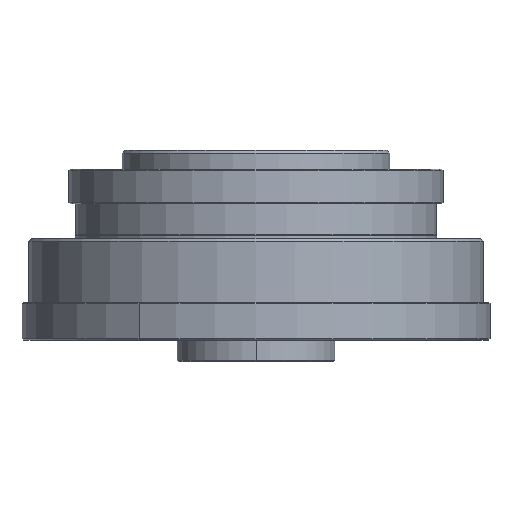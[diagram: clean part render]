
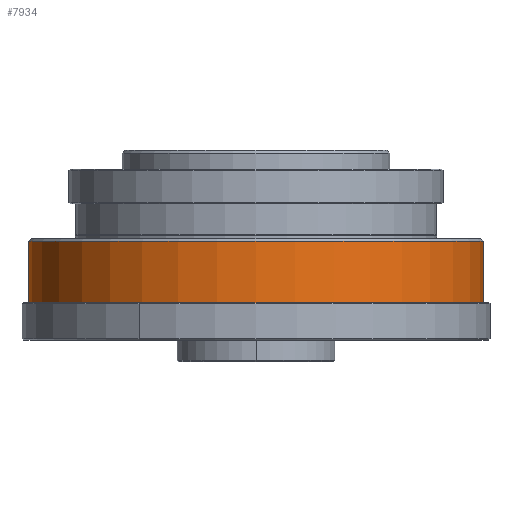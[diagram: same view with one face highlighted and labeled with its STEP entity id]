
A CAD part, front view. The second image highlights one B-rep face of the part: STEP entity #7934.
In plain terms, the highlighted cylindrical face has radius 85 mm (diameter 170 mm), a partial arc.
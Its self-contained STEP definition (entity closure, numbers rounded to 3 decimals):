
#845 = VERTEX_POINT ( 'NONE', #9096 ) ;
#924 = ORIENTED_EDGE ( 'NONE', *, *, #7757, .T. ) ;
#1598 = DIRECTION ( 'NONE',  ( 0., 0., -1. ) ) ;
#1715 = CARTESIAN_POINT ( 'NONE',  ( -76.506, -6.297, 184. ) ) ;
#1745 = DIRECTION ( 'NONE',  ( 0., 0., -1. ) ) ;
#1783 = VECTOR ( 'NONE', #1598, 1000. ) ;
#1852 = CARTESIAN_POINT ( 'NONE',  ( 8.494, -6.297, 183. ) ) ;
#1866 = DIRECTION ( 'NONE',  ( 0., 0., -1. ) ) ;
#2244 = LINE ( 'NONE', #4600, #1783 ) ;
#2281 = EDGE_LOOP ( 'NONE', ( #2477, #2603, #924, #6782 ) ) ;
#2311 = DIRECTION ( 'NONE',  ( 0., 0., 1. ) ) ;
#2346 = DIRECTION ( 'NONE',  ( 1., 0., 0. ) ) ;
#2376 = EDGE_CURVE ( 'NONE', #845, #3289, #5671, .T. ) ;
#2477 = ORIENTED_EDGE ( 'NONE', *, *, #8332, .F. ) ;
#2498 = EDGE_CURVE ( 'NONE', #8036, #3223, #2600, .T. ) ;
#2600 = CIRCLE ( 'NONE', #8393, 85. ) ;
#2603 = ORIENTED_EDGE ( 'NONE', *, *, #2376, .T. ) ;
#2934 = CARTESIAN_POINT ( 'NONE',  ( 8.494, -6.297, 156. ) ) ;
#3223 = VERTEX_POINT ( 'NONE', #7099 ) ;
#3289 = VERTEX_POINT ( 'NONE', #3935 ) ;
#3338 = LINE ( 'NONE', #1715, #5257 ) ;
#3935 = CARTESIAN_POINT ( 'NONE',  ( -76.506, -6.297, 183. ) ) ;
#3937 = CARTESIAN_POINT ( 'NONE',  ( 8.494, -6.297, 184. ) ) ;
#4363 = AXIS2_PLACEMENT_3D ( 'NONE', #1852, #1866, #9013 ) ;
#4365 = DIRECTION ( 'NONE',  ( 0., 0., -1. ) ) ;
#4455 = DIRECTION ( 'NONE',  ( -1., 0., 0. ) ) ;
#4600 = CARTESIAN_POINT ( 'NONE',  ( 93.494, -6.297, 184. ) ) ;
#5257 = VECTOR ( 'NONE', #1745, 1000. ) ;
#5671 = CIRCLE ( 'NONE', #4363, 85. ) ;
#5850 = AXIS2_PLACEMENT_3D ( 'NONE', #3937, #4365, #4455 ) ;
#6782 = ORIENTED_EDGE ( 'NONE', *, *, #2498, .T. ) ;
#7099 = CARTESIAN_POINT ( 'NONE',  ( 93.494, -6.297, 156. ) ) ;
#7463 = CYLINDRICAL_SURFACE ( 'NONE', #5850, 85. ) ;
#7757 = EDGE_CURVE ( 'NONE', #3289, #8036, #3338, .T. ) ;
#7934 = ADVANCED_FACE ( 'NONE', ( #7974 ), #7463, .T. ) ;
#7974 = FACE_OUTER_BOUND ( 'NONE', #2281, .T. ) ;
#8036 = VERTEX_POINT ( 'NONE', #8328 ) ;
#8328 = CARTESIAN_POINT ( 'NONE',  ( -76.506, -6.297, 156. ) ) ;
#8332 = EDGE_CURVE ( 'NONE', #845, #3223, #2244, .T. ) ;
#8393 = AXIS2_PLACEMENT_3D ( 'NONE', #2934, #2311, #2346 ) ;
#9013 = DIRECTION ( 'NONE',  ( 1., 0., 0. ) ) ;
#9096 = CARTESIAN_POINT ( 'NONE',  ( 93.494, -6.297, 183. ) ) ;
